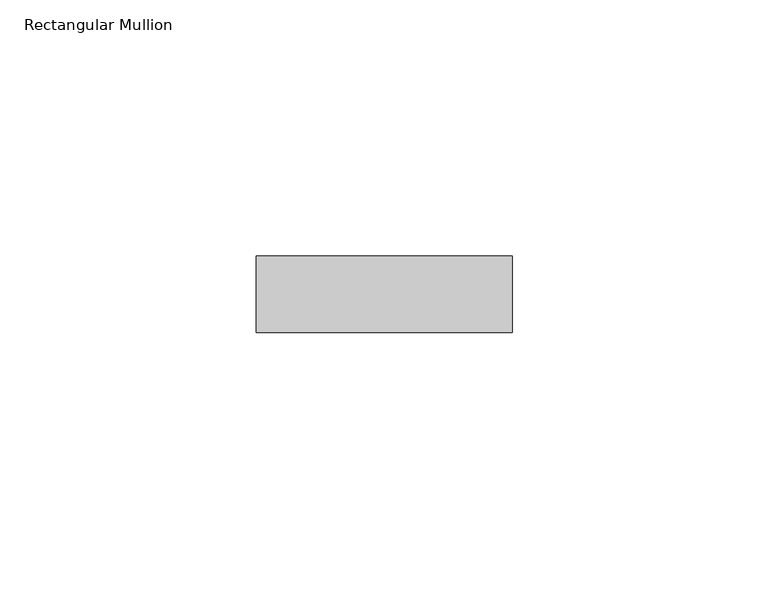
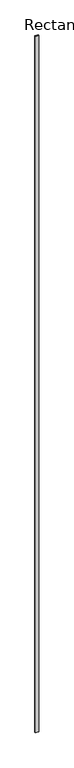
"""IFC4 building model written with IfcOpenShell, lengths in millimetres: member geometry, Rectangular Mullion : Ripa."""

import ifcopenshell
import ifcopenshell.guid

model = None  # the IFC model being written
_history = None  # IfcOwnerHistory: only IFC2X3 demands one
_inside = {}  # id of a spatial element -> (the spatial element, [elements in it])
_under = {}  # id of a project, library or spatial element -> (it, [spatial elements below it])
_declared = {}  # id of a project -> (the project, [libraries it declares])
_typed = {}  # id of a type object -> (the type object, [elements of that type])
_made_of = {}  # id of a material, layer set ... -> (it, [elements and type objects made of it])


def new_model(schema):
    """Start an empty IFC model of exactly this schema.

    Asked for "IFC4X3", IfcOpenShell would pick the latest addendum, in which some entities
    have other attributes; the version numbers below select the first issue.
    IFC2X3 requires an IfcOwnerHistory on every rooted entity: one is made here for all.
    """
    global model, _history
    if schema == "IFC4X3":
        model = ifcopenshell.file(schema_version=(4, 3, 0, 0))
    else:
        model = ifcopenshell.file(schema=schema)
    _inside.clear()
    _under.clear()
    _declared.clear()
    _typed.clear()
    _made_of.clear()
    _history = None
    if model.schema == "IFC2X3":
        org = make("IfcOrganization", Name="unknown")
        user = make(
            "IfcPersonAndOrganization",
            ThePerson=make("IfcPerson", FamilyName="unknown"),
            TheOrganization=org,
        )
        app = make(
            "IfcApplication",
            ApplicationDeveloper=org,
            Version="unknown",
            ApplicationFullName="unknown",
            ApplicationIdentifier="unknown",
        )
        _history = make(
            "IfcOwnerHistory",
            OwningUser=user,
            OwningApplication=app,
            ChangeAction="ADDED",
            CreationDate=0,
        )
    return model


def make(cls, **values):
    """One entity of the class cls with the attributes given. An attribute that is None is left unset."""
    return model.create_entity(
        cls, **{name: value for name, value in values.items() if value is not None}
    )


def rooted(cls, **values):
    """An entity with a GlobalId (a new one), such as an element, a storey or a relation."""
    return make(cls, GlobalId=ifcopenshell.guid.new(), OwnerHistory=_history, **values)


def si_unit(unit_type, name, prefix=None):
    """IfcSIUnit, for example si_unit("LENGTHUNIT", "METRE", prefix="MILLI")."""
    return make("IfcSIUnit", UnitType=unit_type, Prefix=prefix, Name=name)


def assignment(units):
    """IfcUnitAssignment: the units of a project."""
    return None if units is None else make("IfcUnitAssignment", Units=units)


def point(xyz):
    """IfcCartesianPoint."""
    return None if xyz is None else make("IfcCartesianPoint", Coordinates=xyz)


def direction(xyz):
    """IfcDirection."""
    return None if xyz is None else make("IfcDirection", DirectionRatios=xyz)


def frame(location, z_axis=None, x_axis=None):
    """IfcAxis2Placement3D, a coordinate frame: its origin and axes. An axis left out is left unset."""
    return make(
        "IfcAxis2Placement3D",
        Location=point(location),
        Axis=direction(z_axis),
        RefDirection=direction(x_axis),
    )


def origin():
    """The frame at (0, 0, 0) with its axes left unset."""
    return frame((0.0, 0.0, 0.0))


def place(relative_to, where):
    """IfcLocalPlacement: puts the frame where relative to a parent placement (None: the world)."""
    return make(
        "IfcLocalPlacement", PlacementRelTo=relative_to, RelativePlacement=where
    )


def context(
    kind, dimensions, precision=None, world=None, true_north=None, identifier=None
):
    """IfcGeometricRepresentationContext, for example the 3D "Model" context."""
    return make(
        "IfcGeometricRepresentationContext",
        ContextIdentifier=identifier,
        ContextType=kind,
        CoordinateSpaceDimension=dimensions,
        Precision=precision,
        WorldCoordinateSystem=world,
        TrueNorth=true_north,
    )


def project(units=None, contexts=None):
    """IfcProject with its units and contexts."""
    return rooted(
        "IfcProject",
        Name="project",
        RepresentationContexts=contexts,
        UnitsInContext=assignment(units),
    )


def spatial(cls, under=None, at=None, **own):
    """A site, building, storey or space (cls), placed at a placement, below another one or the project."""
    s = rooted(cls, ObjectPlacement=at, **own)
    if under is not None:
        _under.setdefault(under.id(), (under, []))[1].append(s)
    return s


def polyline(points):
    """IfcPolyline through the points."""
    return make("IfcPolyline", Points=[point(p) for p in points])


def outline(outer, holes=None, kind="AREA"):
    """IfcArbitraryClosedProfileDef: a profile drawn as a closed curve; with holes, ...WithVoids."""
    if holes is None:
        return make("IfcArbitraryClosedProfileDef", ProfileType=kind, OuterCurve=outer)
    return make(
        "IfcArbitraryProfileDefWithVoids",
        ProfileType=kind,
        OuterCurve=outer,
        InnerCurves=holes,
    )


def extrude(swept, where, along, depth):
    """IfcExtrudedAreaSolid: the profile swept, set in the frame where, extruded along a direction by depth."""
    return make(
        "IfcExtrudedAreaSolid",
        SweptArea=swept,
        Position=where,
        ExtrudedDirection=direction(along),
        Depth=depth,
    )


def shape(context_of_items, identifier, shape_type, items):
    """IfcShapeRepresentation: the items that make up one representation, for example the "Body"."""
    return make(
        "IfcShapeRepresentation",
        ContextOfItems=context_of_items,
        RepresentationIdentifier=identifier,
        RepresentationType=shape_type,
        Items=items,
    )


def source(mapping_origin, context_of_items, identifier, shape_type, items):
    """IfcRepresentationMap: a shape defined once, which mapped items show again and again."""
    return make(
        "IfcRepresentationMap",
        MappingOrigin=mapping_origin,
        MappedRepresentation=shape(context_of_items, identifier, shape_type, items),
    )


def transform(
    local_origin,
    x_axis=None,
    y_axis=None,
    z_axis=None,
    scale=None,
    scale2=None,
    scale3=None,
    uniform=True,
):
    """IfcCartesianTransformationOperator3D, or its non-uniform kind. x_axis, y_axis, z_axis: its Axis1, 2, 3."""
    if uniform:
        return make(
            "IfcCartesianTransformationOperator3D",
            Axis1=direction(x_axis),
            Axis2=direction(y_axis),
            LocalOrigin=point(local_origin),
            Scale=scale,
            Axis3=direction(z_axis),
        )
    return make(
        "IfcCartesianTransformationOperator3DnonUniform",
        Axis1=direction(x_axis),
        Axis2=direction(y_axis),
        LocalOrigin=point(local_origin),
        Scale=scale,
        Axis3=direction(z_axis),
        Scale2=scale2,
        Scale3=scale3,
    )


def mapped(mapping_source, mapping_target):
    """IfcMappedItem: shows the shape of a source again, moved by a transform."""
    return make(
        "IfcMappedItem", MappingSource=mapping_source, MappingTarget=mapping_target
    )


def made_of(thing, what):
    """Note that an element or type object is made of a material, layer set ...; save() writes the relation."""
    if what is not None:
        _made_of.setdefault(what.id(), (what, []))[1].append(thing)
    return thing


def element(
    cls,
    number,
    at=None,
    inside=None,
    cuts=None,
    type_object=None,
    material=None,
    context=None,
    identifier="Body",
    shape_type=None,
    held_by="IfcProductDefinitionShape",
    body=None,
    shapes=None,
    **own,
):
    """One element of the class cls, such as IfcWall. Its Tag is "e" and its number.

    at: its placement. inside: the storey or other place that contains it. cuts: it is an
    opening in that element (IfcRelVoidsElement). A single representation is given by context,
    identifier, shape_type and body (its items); several are given by shapes. held_by: the class
    of the entity that holds the representations. save() writes the other relations.
    """
    e = rooted(cls, Tag="e%d" % number, ObjectPlacement=at, **own)
    if body is not None:
        shapes = [shape(context, identifier, shape_type, body)]
    if shapes is not None:
        e.Representation = make(held_by, Representations=shapes)
    if inside is not None:
        _inside.setdefault(inside.id(), (inside, []))[1].append(e)
    if cuts is not None:
        rooted(
            "IfcRelVoidsElement", RelatingBuildingElement=cuts, RelatedOpeningElement=e
        )
    if type_object is not None:
        _typed.setdefault(type_object.id(), (type_object, []))[1].append(e)
    return made_of(e, material)


def aggregate(whole, parts):
    """IfcRelAggregates: a whole, such as a stair, and the parts it consists of."""
    return rooted("IfcRelAggregates", RelatingObject=whole, RelatedObjects=parts)


def save(model, path):
    """Write the relations noted so far, then the file.

    IfcRelAggregates (storeys below a building ...), IfcRelContainedInSpatialStructure (elements
    in a storey), IfcRelDefinesByType, IfcRelAssociatesMaterial and IfcRelDeclares: one each for
    every whole, place, type object, material and project.
    """
    for whole, parts in _under.values():
        aggregate(whole, parts)
    for where, things in _inside.values():
        rooted(
            "IfcRelContainedInSpatialStructure",
            RelatedElements=things,
            RelatingStructure=where,
        )
    for kind, things in _typed.values():
        rooted("IfcRelDefinesByType", RelatedObjects=things, RelatingType=kind)
    for what, things in _made_of.values():
        rooted("IfcRelAssociatesMaterial", RelatedObjects=things, RelatingMaterial=what)
    for by, libraries in _declared.values():
        rooted("IfcRelDeclares", RelatingContext=by, RelatedDefinitions=libraries)
    model.write(path)


def rectangular_mullion_b272098b(model_context):
    return source(origin(), model_context, "Body", "SweptSolid", [
        extrude(outline(polyline([(-50.0, -75.0), (-50.0, -60.0), (0.0, -60.0), (0.0, -75.0), (-50.0, -75.0)])), frame((0.0, 0.0, -11499.877058), z_axis=(0.0, 0.0, 1.0), x_axis=(1.0, 0.0, 0.0)), (0.0, 0.0, 1.0), 11499.877058),
    ])


if __name__ == "__main__":
    model = new_model("IFC4")
    model_context = context("Model", 3, world=origin())
    ifc_project = project(units=[si_unit("LENGTHUNIT", "METRE", prefix="MILLI")], contexts=[model_context])
    site = spatial("IfcSite", under=ifc_project)
    building = spatial("IfcBuilding", under=site)
    placement = place(None, origin())
    rectangular_mullion_shape = rectangular_mullion_b272098b(model_context)
    element("IfcMember", 1, ObjectType="Rectangular Mullion : Ripa", at=placement, inside=building, context=model_context, shape_type="MappedRepresentation", body=[
        mapped(rectangular_mullion_shape, transform((0.0, 0.0, 0.0), x_axis=(1.0, 0.0, 0.0), y_axis=(0.0, 1.0, 0.0), z_axis=(0.0, 0.0, 1.0))),
    ])
    save(model, "model.ifc")
